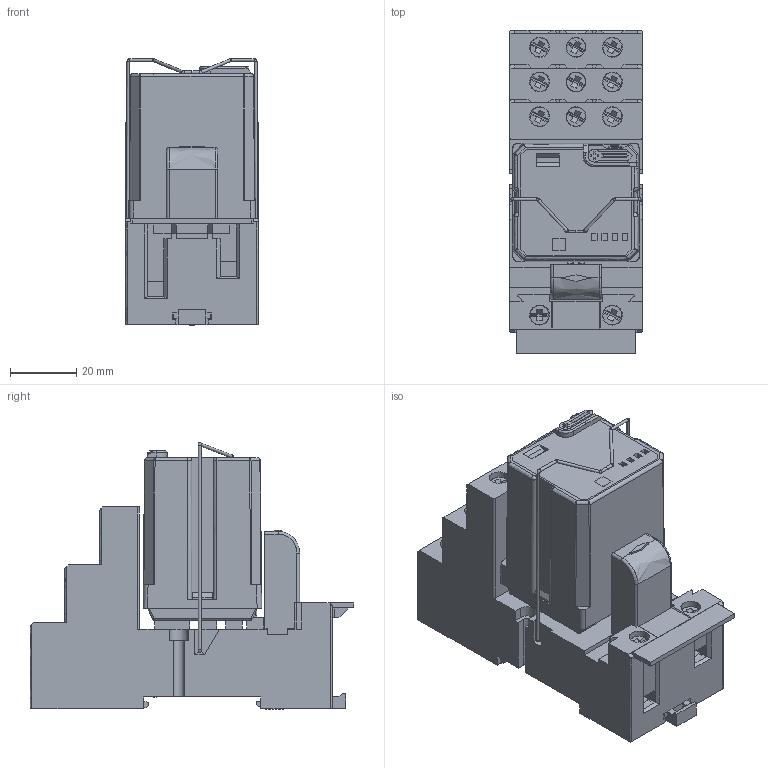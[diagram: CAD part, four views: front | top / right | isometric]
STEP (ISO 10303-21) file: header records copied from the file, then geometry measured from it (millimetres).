
FILE_DESCRIPTION(('STEP AP214'),'2;1');
FILE_NAME('9203-SMA_9902_6232.stp','2018-01-04T11:57:55',(''),(''),'2007.1.106','THINKDESIGN','');
FILE_SCHEMA(('AUTOMOTIVE_DESIGN'));
Length unit declared in the file: millimetre
Products named in the file (1): top
Bounding box: 40 x 97.8 x 80.61 mm (x, y, z)
Surface area: 47504.3 mm2 (no closed solid volume)
Topology: 0 solids, 0 shells, 1578 faces, 8575 edges, 8521 vertices
Faces by surface type: bspline 1578
Entity records: 57479 total; most frequent: CARTESIAN_POINT 35053, COMPOSITE_CURVE_SEGMENT 8497, QUASI_UNIFORM_CURVE 6625, STYLED_ITEM 1579, OUTER_BOUNDARY_CURVE 1560, CURVE_BOUNDED_SURFACE 1560, B_SPLINE_SURFACE_WITH_KNOTS 1373, B_SPLINE_CURVE_WITH_KNOTS 1078
